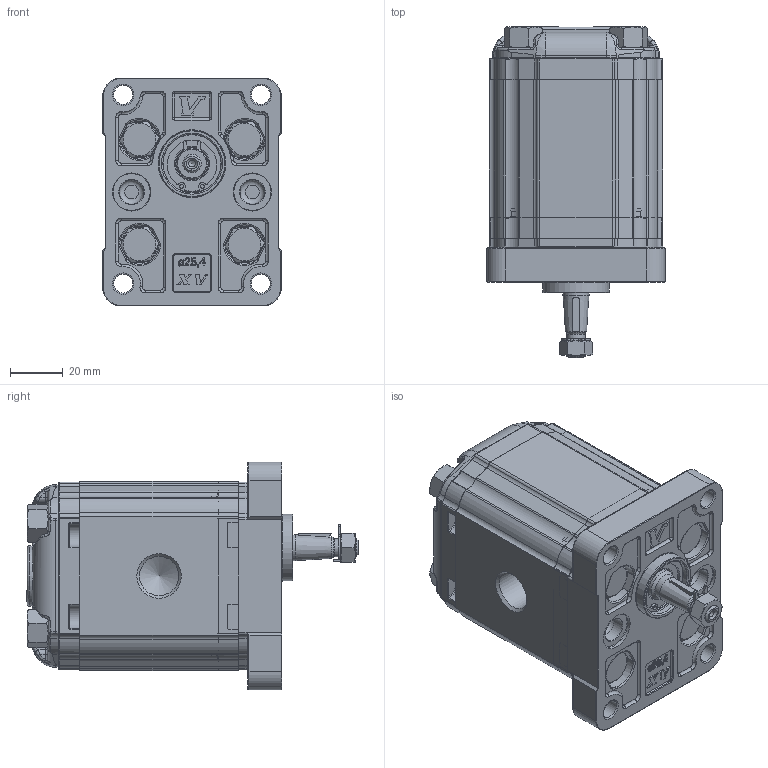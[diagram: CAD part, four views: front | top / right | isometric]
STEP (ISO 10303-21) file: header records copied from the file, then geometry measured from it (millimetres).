
FILE_DESCRIPTION( ( 'Unknown' ), '1' );
FILE_NAME( 'P:/montaggio_easy/output/STP/X1U3101FBBA.stp', 'Unknown', ( 'Unknown' ), ( 'Unknown' ), 'PSStep 14.0', 'Unknown', ' ' );
FILE_SCHEMA( ( 'AUTOMOTIVE_DESIGN { 1 0 10303 214 1 1 1 1 }' ) );
Length unit declared in the file: millimetre
Products named in the file (5): Assem1; X1U01; 1F; X1BBH60,5; XU101-A
Bounding box: 68 x 126.4 x 86.7 mm (x, y, z)
Surface area: 153247.2 mm2
Topology: 8 solids, 10 shells, 3980 faces, 10142 edges, 6418 vertices
Faces by surface type: plane 1792, cylinder 1026, torus 458, extrusion 282, bspline 212, cone 194, sphere 16
Full cylindrical faces by diameter (mm): 1.447 x4, 2.5 x4, 3 x8, 7 x4, 7.15 x8, 7.25 x2, 8 x16, 8.5 x12, 9 x4, 9.3 x4, 9.92 x2, 10.5 x4, 11.965 x2, 12 x8, 12.4 x2, 14.5 x4, 14.95 x4, 15.115 x2, 17.147 x2, 19 x2, 20 x2, 21.8 x2, 22 x4, 22.2 x2, 23 x2, 25.4 x2
Entity records: 82417 total; most frequent: CARTESIAN_POINT 19426, ORIENTED_EDGE 9716, DIRECTION 9576, EDGE_CURVE 4858, AXIS2_PLACEMENT_3D 3405, VERTEX_POINT 3151, VECTOR 2766, LINE 2625
